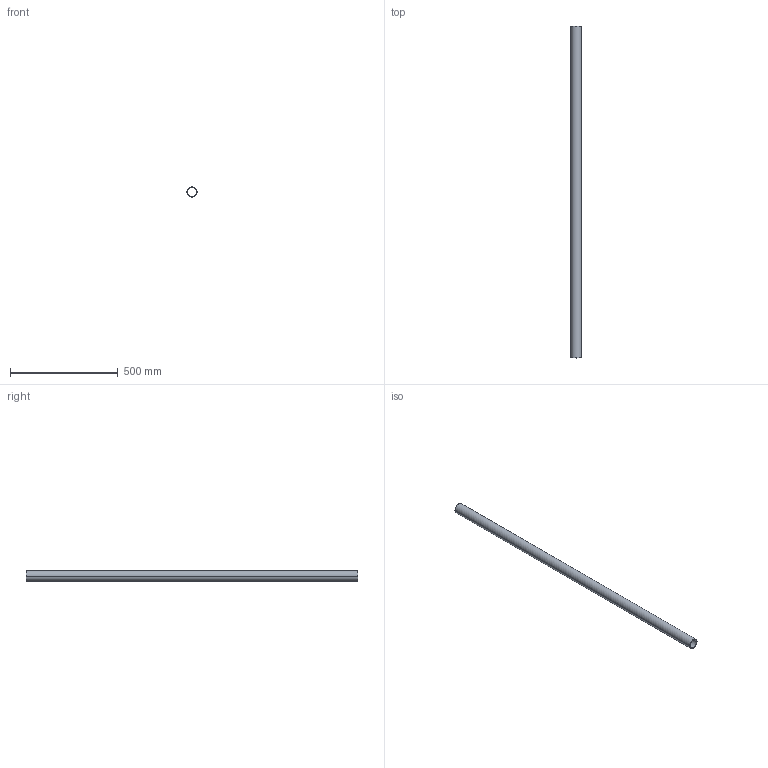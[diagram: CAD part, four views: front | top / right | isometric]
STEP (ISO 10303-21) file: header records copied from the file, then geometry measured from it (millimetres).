
FILE_DESCRIPTION (( 'STEP AP214' ), '1' );
FILE_NAME ('CCJ029-REP.311 - MAIN COURANTE PLATEFORME INFERIEURE B1-C1.STEP', '2024-01-31T09:54:51', ( '' ), ( '' ), 'SwSTEP 2.0', 'SolidWorks 2021', '' );
FILE_SCHEMA (( 'AUTOMOTIVE_DESIGN' ));
Length unit declared in the file: millimetre
Products named in the file (1): CCJ029-REP.311 - MAIN COURANTE PLATEFORME INFERIEURE B1-C1
Bounding box: 48.3 x 1541 x 48.3 mm (x, y, z)
Volume: 554316.7 mm3; surface area: 444172.8 mm2
Topology: 1 solids, 1 shells, 6 faces, 12 edges, 8 vertices
Faces by surface type: cylinder 4, plane 2
Entity records: 202 total; most frequent: DIRECTION 34, CARTESIAN_POINT 27, ORIENTED_EDGE 24, AXIS2_PLACEMENT_3D 15, EDGE_CURVE 12, CIRCLE 8, VERTEX_POINT 8, EDGE_LOOP 8
